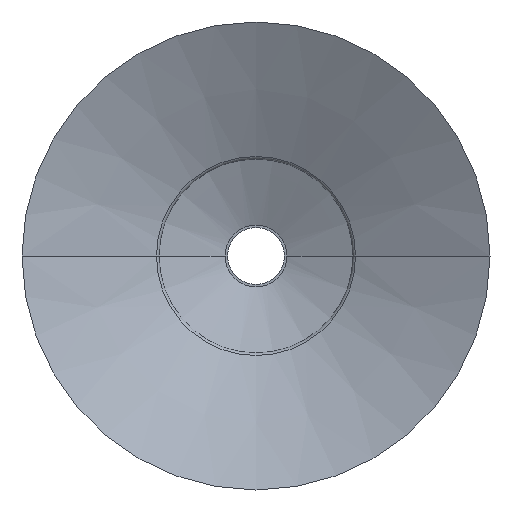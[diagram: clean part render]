
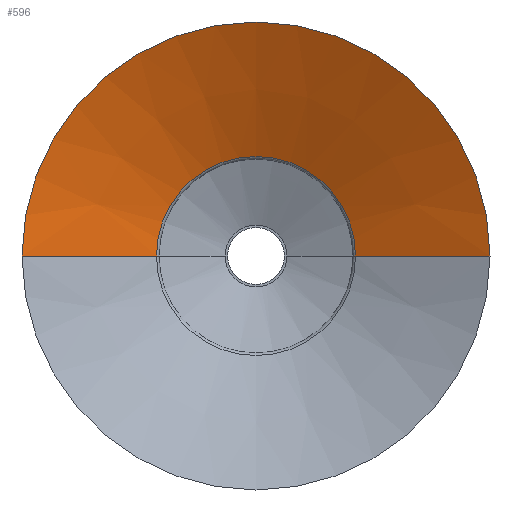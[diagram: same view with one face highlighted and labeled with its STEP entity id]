
A CAD part, front view. The second image highlights one B-rep face of the part: STEP entity #596.
In plain terms, the highlighted conical face has half-angle 64.057 degrees and reference radius 9.977 mm.
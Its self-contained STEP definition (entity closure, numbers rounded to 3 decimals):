
#48 = DIRECTION ( 'NONE',  ( -0.899, 0.437, 0. ) ) ;
#50 = CARTESIAN_POINT ( 'NONE',  ( 14., 0., 0. ) ) ;
#68 = DIRECTION ( 'NONE',  ( 0.899, 0.437, 0. ) ) ;
#166 = CARTESIAN_POINT ( 'NONE',  ( -5.953, 3.915, 0. ) ) ;
#197 = CARTESIAN_POINT ( 'NONE',  ( 0., 3.915, 0. ) ) ;
#212 = DIRECTION ( 'NONE',  ( 0., -1., 0. ) ) ;
#229 = ORIENTED_EDGE ( 'NONE', *, *, #542, .T. ) ;
#230 = FACE_OUTER_BOUND ( 'NONE', #715, .T. ) ;
#232 = CARTESIAN_POINT ( 'NONE',  ( 5.953, 3.915, 0. ) ) ;
#233 = LINE ( 'NONE', #636, #426 ) ;
#252 = DIRECTION ( 'NONE',  ( 0., 1., 0. ) ) ;
#286 = AXIS2_PLACEMENT_3D ( 'NONE', #530, #252, #389 ) ;
#289 = VERTEX_POINT ( 'NONE', #756 ) ;
#330 = VECTOR ( 'NONE', #68, 1000. ) ;
#343 = CARTESIAN_POINT ( 'NONE',  ( -14., 0., 0. ) ) ;
#346 = DIRECTION ( 'NONE',  ( 0., -1., 0. ) ) ;
#355 = EDGE_CURVE ( 'NONE', #476, #742, #233, .T. ) ;
#389 = DIRECTION ( 'NONE',  ( -1., 0., 0. ) ) ;
#415 = EDGE_CURVE ( 'NONE', #289, #476, #565, .T. ) ;
#426 = VECTOR ( 'NONE', #48, 1000. ) ;
#428 = CARTESIAN_POINT ( 'NONE',  ( 0., 1.957, 0. ) ) ;
#440 = EDGE_CURVE ( 'NONE', #742, #855, #593, .T. ) ;
#454 = AXIS2_PLACEMENT_3D ( 'NONE', #428, #212, #818 ) ;
#476 = VERTEX_POINT ( 'NONE', #50 ) ;
#530 = CARTESIAN_POINT ( 'NONE',  ( 0., 0., 0. ) ) ;
#542 = EDGE_CURVE ( 'NONE', #289, #855, #816, .T. ) ;
#551 = CONICAL_SURFACE ( 'NONE', #454, 9.977, 1.118 ) ;
#554 = AXIS2_PLACEMENT_3D ( 'NONE', #197, #346, #719 ) ;
#565 = CIRCLE ( 'NONE', #286, 14. ) ;
#593 = CIRCLE ( 'NONE', #554, 5.953 ) ;
#596 = ADVANCED_FACE ( 'NONE', ( #230 ), #551, .F. ) ;
#617 = ORIENTED_EDGE ( 'NONE', *, *, #415, .F. ) ;
#636 = CARTESIAN_POINT ( 'NONE',  ( 14., 0., 0. ) ) ;
#715 = EDGE_LOOP ( 'NONE', ( #868, #617, #229, #823 ) ) ;
#719 = DIRECTION ( 'NONE',  ( 1., 0., 0. ) ) ;
#742 = VERTEX_POINT ( 'NONE', #232 ) ;
#756 = CARTESIAN_POINT ( 'NONE',  ( -14., 0., 0. ) ) ;
#816 = LINE ( 'NONE', #343, #330 ) ;
#818 = DIRECTION ( 'NONE',  ( -1., 0., 0. ) ) ;
#823 = ORIENTED_EDGE ( 'NONE', *, *, #440, .F. ) ;
#855 = VERTEX_POINT ( 'NONE', #166 ) ;
#868 = ORIENTED_EDGE ( 'NONE', *, *, #355, .F. ) ;
